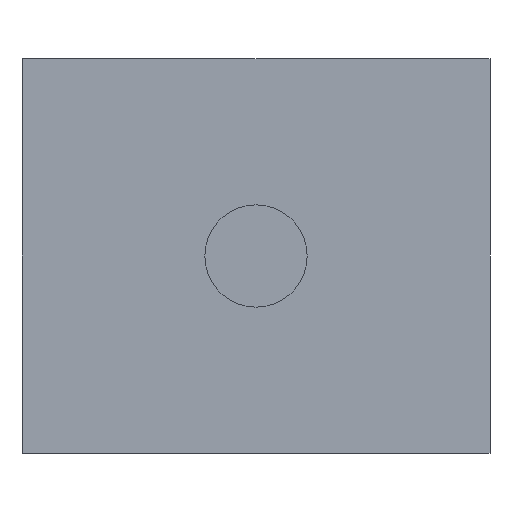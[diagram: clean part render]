
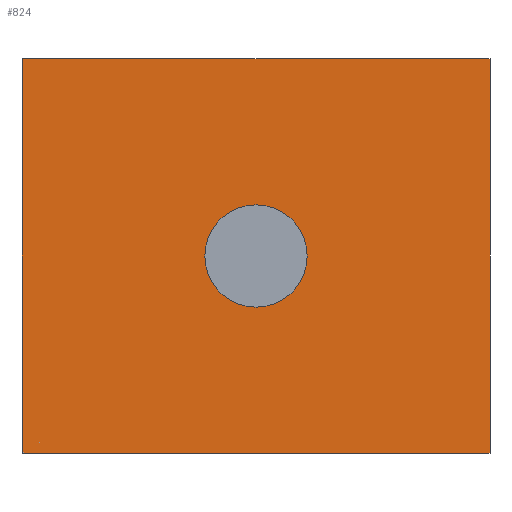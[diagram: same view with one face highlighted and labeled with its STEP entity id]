
A CAD part, front view. The second image highlights one B-rep face of the part: STEP entity #824.
In plain terms, the highlighted planar face has unit normal (0, -1, 0).
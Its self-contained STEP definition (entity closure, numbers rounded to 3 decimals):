
#21 = EDGE_CURVE('',#22,#24,#26,.T.);
#22 = VERTEX_POINT('',#23);
#23 = CARTESIAN_POINT('',(-8.,-20.5,0.));
#24 = VERTEX_POINT('',#25);
#25 = CARTESIAN_POINT('',(-8.,-20.5,13.5));
#26 = SURFACE_CURVE('',#27,(#31,#43),.PCURVE_S1.);
#27 = LINE('',#28,#29);
#28 = CARTESIAN_POINT('',(-8.,-20.5,0.));
#29 = VECTOR('',#30,1.);
#30 = DIRECTION('',(0.,0.,1.));
#31 = PCURVE('',#32,#37);
#32 = PLANE('',#33);
#33 = AXIS2_PLACEMENT_3D('',#34,#35,#36);
#34 = CARTESIAN_POINT('',(-8.,-20.5,0.));
#35 = DIRECTION('',(1.,0.,-0.));
#36 = DIRECTION('',(0.,0.,1.));
#37 = DEFINITIONAL_REPRESENTATION('',(#38),#42);
#38 = LINE('',#39,#40);
#39 = CARTESIAN_POINT('',(0.,0.));
#40 = VECTOR('',#41,1.);
#41 = DIRECTION('',(1.,0.));
#42 = ( GEOMETRIC_REPRESENTATION_CONTEXT(2) 
PARAMETRIC_REPRESENTATION_CONTEXT() REPRESENTATION_CONTEXT('2D SPACE',''
  ) );
#43 = PCURVE('',#44,#49);
#44 = PLANE('',#45);
#45 = AXIS2_PLACEMENT_3D('',#46,#47,#48);
#46 = CARTESIAN_POINT('',(-8.,-20.5,0.));
#47 = DIRECTION('',(-0.,1.,0.));
#48 = DIRECTION('',(0.,0.,1.));
#49 = DEFINITIONAL_REPRESENTATION('',(#50),#54);
#50 = LINE('',#51,#52);
#51 = CARTESIAN_POINT('',(0.,0.));
#52 = VECTOR('',#53,1.);
#53 = DIRECTION('',(1.,0.));
#54 = ( GEOMETRIC_REPRESENTATION_CONTEXT(2) 
PARAMETRIC_REPRESENTATION_CONTEXT() REPRESENTATION_CONTEXT('2D SPACE',''
  ) );
#72 = PLANE('',#73);
#73 = AXIS2_PLACEMENT_3D('',#74,#75,#76);
#74 = CARTESIAN_POINT('',(-8.,-20.5,0.));
#75 = DIRECTION('',(0.,0.,1.));
#76 = DIRECTION('',(1.,0.,-0.));
#126 = PLANE('',#127);
#127 = AXIS2_PLACEMENT_3D('',#128,#129,#130);
#128 = CARTESIAN_POINT('',(-8.,-20.5,13.5));
#129 = DIRECTION('',(0.,0.,1.));
#130 = DIRECTION('',(1.,0.,-0.));
#536 = PLANE('',#537);
#537 = AXIS2_PLACEMENT_3D('',#538,#539,#540);
#538 = CARTESIAN_POINT('',(8.,-20.5,0.));
#539 = DIRECTION('',(1.,0.,-0.));
#540 = DIRECTION('',(0.,0.,1.));
#574 = EDGE_CURVE('',#575,#577,#579,.T.);
#575 = VERTEX_POINT('',#576);
#576 = CARTESIAN_POINT('',(8.,-20.5,0.));
#577 = VERTEX_POINT('',#578);
#578 = CARTESIAN_POINT('',(8.,-20.5,13.5));
#579 = SURFACE_CURVE('',#580,(#584,#591),.PCURVE_S1.);
#580 = LINE('',#581,#582);
#581 = CARTESIAN_POINT('',(8.,-20.5,0.));
#582 = VECTOR('',#583,1.);
#583 = DIRECTION('',(0.,0.,1.));
#584 = PCURVE('',#536,#585);
#585 = DEFINITIONAL_REPRESENTATION('',(#586),#590);
#586 = LINE('',#587,#588);
#587 = CARTESIAN_POINT('',(0.,0.));
#588 = VECTOR('',#589,1.);
#589 = DIRECTION('',(1.,0.));
#590 = ( GEOMETRIC_REPRESENTATION_CONTEXT(2) 
PARAMETRIC_REPRESENTATION_CONTEXT() REPRESENTATION_CONTEXT('2D SPACE',''
  ) );
#591 = PCURVE('',#44,#592);
#592 = DEFINITIONAL_REPRESENTATION('',(#593),#597);
#593 = LINE('',#594,#595);
#594 = CARTESIAN_POINT('',(0.,16.));
#595 = VECTOR('',#596,1.);
#596 = DIRECTION('',(1.,0.));
#597 = ( GEOMETRIC_REPRESENTATION_CONTEXT(2) 
PARAMETRIC_REPRESENTATION_CONTEXT() REPRESENTATION_CONTEXT('2D SPACE',''
  ) );
#768 = EDGE_CURVE('',#22,#575,#769,.T.);
#769 = SURFACE_CURVE('',#770,(#774,#781),.PCURVE_S1.);
#770 = LINE('',#771,#772);
#771 = CARTESIAN_POINT('',(-8.,-20.5,0.));
#772 = VECTOR('',#773,1.);
#773 = DIRECTION('',(1.,0.,-0.));
#774 = PCURVE('',#72,#775);
#775 = DEFINITIONAL_REPRESENTATION('',(#776),#780);
#776 = LINE('',#777,#778);
#777 = CARTESIAN_POINT('',(0.,0.));
#778 = VECTOR('',#779,1.);
#779 = DIRECTION('',(1.,0.));
#780 = ( GEOMETRIC_REPRESENTATION_CONTEXT(2) 
PARAMETRIC_REPRESENTATION_CONTEXT() REPRESENTATION_CONTEXT('2D SPACE',''
  ) );
#781 = PCURVE('',#44,#782);
#782 = DEFINITIONAL_REPRESENTATION('',(#783),#787);
#783 = LINE('',#784,#785);
#784 = CARTESIAN_POINT('',(0.,0.));
#785 = VECTOR('',#786,1.);
#786 = DIRECTION('',(0.,1.));
#787 = ( GEOMETRIC_REPRESENTATION_CONTEXT(2) 
PARAMETRIC_REPRESENTATION_CONTEXT() REPRESENTATION_CONTEXT('2D SPACE',''
  ) );
#799 = EDGE_CURVE('',#24,#577,#800,.T.);
#800 = SURFACE_CURVE('',#801,(#805,#812),.PCURVE_S1.);
#801 = LINE('',#802,#803);
#802 = CARTESIAN_POINT('',(-8.,-20.5,13.5));
#803 = VECTOR('',#804,1.);
#804 = DIRECTION('',(1.,0.,-0.));
#805 = PCURVE('',#126,#806);
#806 = DEFINITIONAL_REPRESENTATION('',(#807),#811);
#807 = LINE('',#808,#809);
#808 = CARTESIAN_POINT('',(0.,0.));
#809 = VECTOR('',#810,1.);
#810 = DIRECTION('',(1.,0.));
#811 = ( GEOMETRIC_REPRESENTATION_CONTEXT(2) 
PARAMETRIC_REPRESENTATION_CONTEXT() REPRESENTATION_CONTEXT('2D SPACE',''
  ) );
#812 = PCURVE('',#44,#813);
#813 = DEFINITIONAL_REPRESENTATION('',(#814),#818);
#814 = LINE('',#815,#816);
#815 = CARTESIAN_POINT('',(13.5,0.));
#816 = VECTOR('',#817,1.);
#817 = DIRECTION('',(0.,1.));
#818 = ( GEOMETRIC_REPRESENTATION_CONTEXT(2) 
PARAMETRIC_REPRESENTATION_CONTEXT() REPRESENTATION_CONTEXT('2D SPACE',''
  ) );
#824 = ADVANCED_FACE('',(#825,#831),#44,.F.);
#825 = FACE_BOUND('',#826,.F.);
#826 = EDGE_LOOP('',(#827,#828,#829,#830));
#827 = ORIENTED_EDGE('',*,*,#768,.F.);
#828 = ORIENTED_EDGE('',*,*,#21,.T.);
#829 = ORIENTED_EDGE('',*,*,#799,.T.);
#830 = ORIENTED_EDGE('',*,*,#574,.F.);
#831 = FACE_BOUND('',#832,.F.);
#832 = EDGE_LOOP('',(#833));
#833 = ORIENTED_EDGE('',*,*,#834,.F.);
#834 = EDGE_CURVE('',#835,#835,#837,.T.);
#835 = VERTEX_POINT('',#836);
#836 = CARTESIAN_POINT('',(0.,-20.5,8.5));
#837 = SURFACE_CURVE('',#838,(#843,#850),.PCURVE_S1.);
#838 = CIRCLE('',#839,1.75);
#839 = AXIS2_PLACEMENT_3D('',#840,#841,#842);
#840 = CARTESIAN_POINT('',(0.,-20.5,6.75));
#841 = DIRECTION('',(0.,1.,0.));
#842 = DIRECTION('',(0.,-0.,1.));
#843 = PCURVE('',#44,#844);
#844 = DEFINITIONAL_REPRESENTATION('',(#845),#849);
#845 = CIRCLE('',#846,1.75);
#846 = AXIS2_PLACEMENT_2D('',#847,#848);
#847 = CARTESIAN_POINT('',(6.75,8.));
#848 = DIRECTION('',(1.,0.));
#849 = ( GEOMETRIC_REPRESENTATION_CONTEXT(2) 
PARAMETRIC_REPRESENTATION_CONTEXT() REPRESENTATION_CONTEXT('2D SPACE',''
  ) );
#850 = PCURVE('',#851,#856);
#851 = CYLINDRICAL_SURFACE('',#852,1.75);
#852 = AXIS2_PLACEMENT_3D('',#853,#854,#855);
#853 = CARTESIAN_POINT('',(0.,-21.5,6.75));
#854 = DIRECTION('',(0.,1.,0.));
#855 = DIRECTION('',(0.,-0.,1.));
#856 = DEFINITIONAL_REPRESENTATION('',(#857),#861);
#857 = LINE('',#858,#859);
#858 = CARTESIAN_POINT('',(0.,1.));
#859 = VECTOR('',#860,1.);
#860 = DIRECTION('',(1.,0.));
#861 = ( GEOMETRIC_REPRESENTATION_CONTEXT(2) 
PARAMETRIC_REPRESENTATION_CONTEXT() REPRESENTATION_CONTEXT('2D SPACE',''
  ) );
